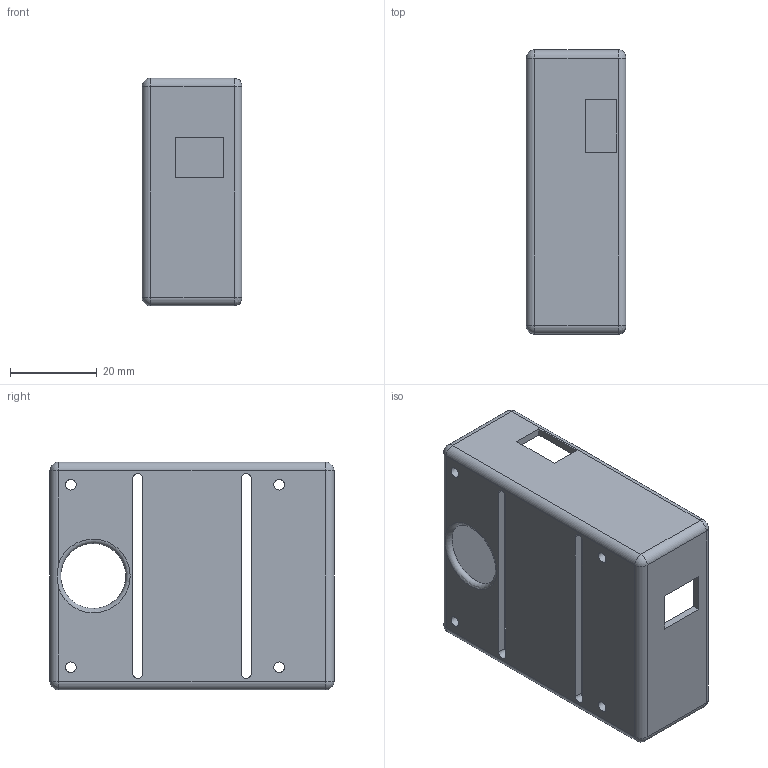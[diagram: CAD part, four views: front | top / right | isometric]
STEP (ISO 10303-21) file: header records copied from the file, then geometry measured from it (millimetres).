
FILE_DESCRIPTION(/* description */ (''),/* implementation_level */ '2;1');
FILE_NAME(/* name */ 'power hub case v15.step',/* time_stamp */ '2025-07-16T17:46:31+08:00',/* author */ (''),/* organization */ (''),/* preprocessor_version */ 'ST-DEVELOPER v20.1',/* originating_system */ 'Autodesk Translation Framework v14.10.0.0',/* authorisation */ '');
FILE_SCHEMA (('AUTOMOTIVE_DESIGN { 1 0 10303 214 3 1 1 }'));
Length unit declared in the file: millimetre
Products named in the file (1): power hub case
Bounding box: 23 x 65.5 x 52.5 mm (x, y, z)
Volume: 13419.3 mm3; surface area: 15831 mm2
Topology: 1 solids, 1 shells, 71 faces, 177 edges, 110 vertices
Faces by surface type: plane 34, cylinder 28, bspline 4, sphere 4, torus 1
Full cylindrical faces by diameter (mm): 2.45 x4, 5.45 x4
Entity records: 2220 total; most frequent: CARTESIAN_POINT 438, DIRECTION 368, ORIENTED_EDGE 354, EDGE_CURVE 177, AXIS2_PLACEMENT_3D 133, VERTEX_POINT 110, LINE 102, VECTOR 102
